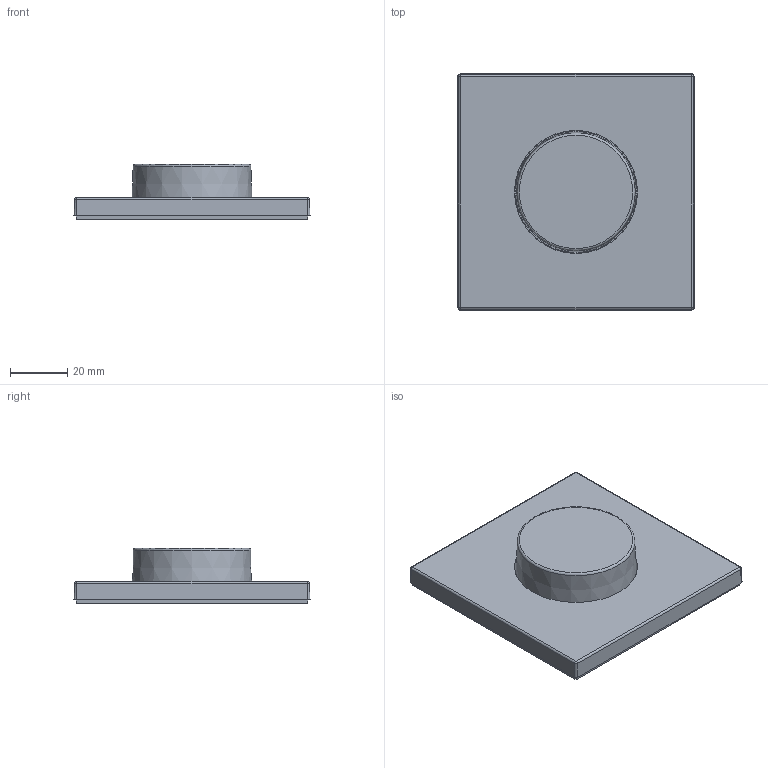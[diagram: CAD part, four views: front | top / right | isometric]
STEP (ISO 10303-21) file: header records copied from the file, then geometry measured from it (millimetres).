
FILE_DESCRIPTION(/* description */ ('Unknown'),/* implementation_level */ '2;1');
FILE_NAME(/* name */ 'Cover_for_DALI-ROT_allVersions',/* time_stamp */ '2023-07-15T22:17:23+02:00',/* author */ ('Unknown'),/* organization */ ('Unknown'),/* preprocessor_version */ 'ST-DEVELOPER v16.7',/* originating_system */ 'DEX',/* authorisation */ $);
FILE_SCHEMA (('AUTOMOTIVE_DESIGN {1 0 10303 214 3 1 1}'));
Length unit declared in the file: millimetre
Products named in the file (3): Assembly_for_Export_ROTw-wo-Cover; Rahmen; Knopf
Assembly tree (2 placements, depth 2):
  Assembly_for_Export_ROTw-wo-Cover
    Rahmen
    Knopf
Bounding box: 82.45 x 82.45 x 19.3 mm (x, y, z)
Volume: 24125.9 mm3; surface area: 24919.1 mm2
Topology: 2 solids, 2 shells, 106 faces, 259 edges, 165 vertices
Faces by surface type: plane 68, cone 20, cylinder 13, sphere 4, torus 1
Full cylindrical faces by diameter (mm): 4.1 x1
Entity records: 3077 total; most frequent: CARTESIAN_POINT 602, DIRECTION 500, ORIENTED_EDGE 474, EDGE_CURVE 237, AXIS2_PLACEMENT_3D 186, VERTEX_POINT 160, EDGE_LOOP 133, FACE_BOUND 133
